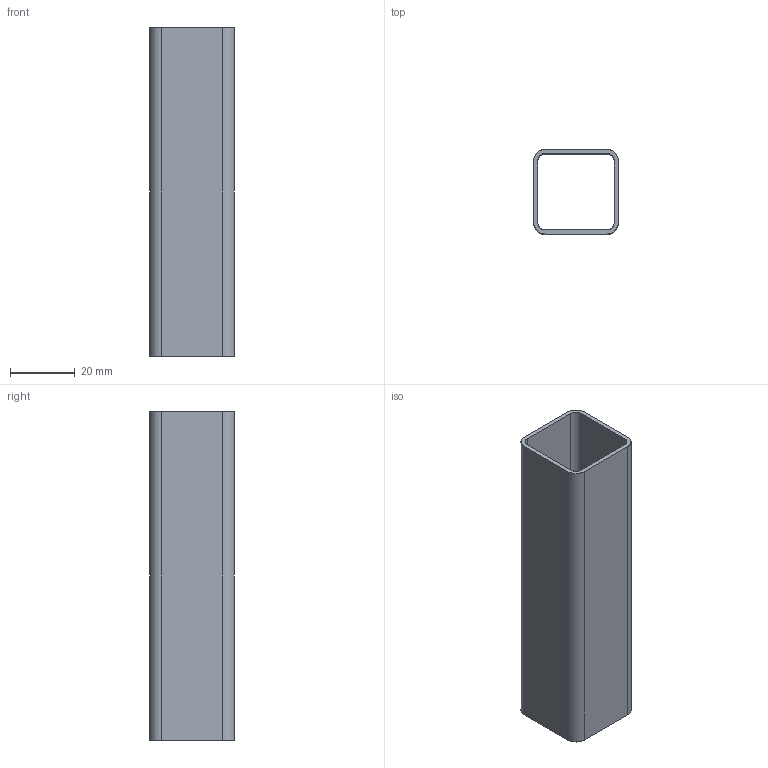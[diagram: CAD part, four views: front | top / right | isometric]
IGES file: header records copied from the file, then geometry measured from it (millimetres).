
Start section: SolidWorks IGES file using analytic representation for surfaces
Global section: file name: C:\Working\Gusset Convert\DRP-002-0000-01.IGS; native system: SolidWorks 2010; preprocessor: SolidWorks 2010; author: mbush2; date: 100624.123327; units: inch
Bounding box: 26.15 x 26.15 x 101.6 mm (x, y, z)
Surface area: 19437.9 mm2 (no closed solid volume)
Topology: 0 solids, 0 shells, 18 faces, 208 edges, 208 vertices
Faces by surface type: bspline 10, revolution 8
